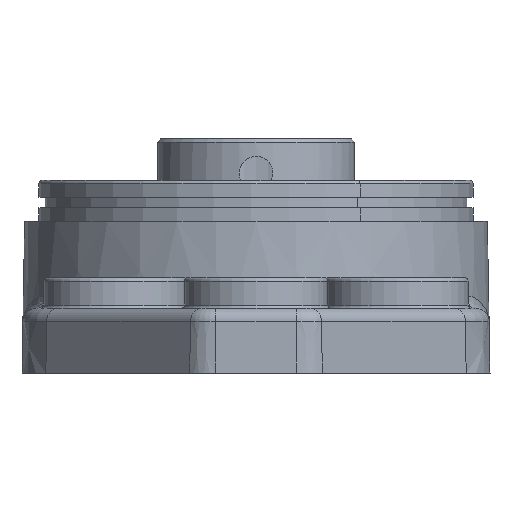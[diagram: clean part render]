
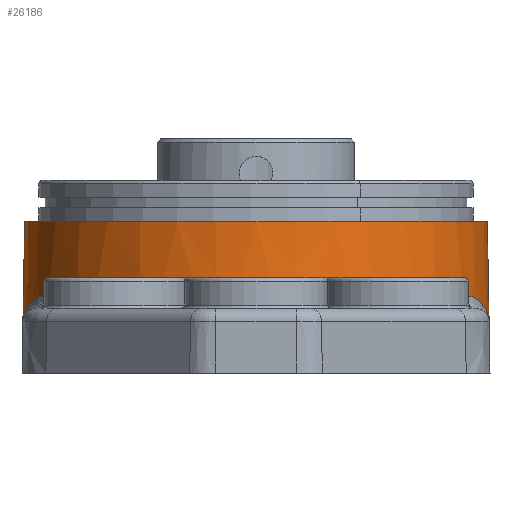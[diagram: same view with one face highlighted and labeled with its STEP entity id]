
A CAD part, front view. The second image highlights one B-rep face of the part: STEP entity #26186.
In plain terms, the highlighted conical face has half-angle 1 degrees and reference radius 34.4 mm.
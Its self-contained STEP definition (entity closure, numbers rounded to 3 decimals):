
#5087=CARTESIAN_POINT('Vertex',(34.251,0.,8.535)) ;
#5120=CARTESIAN_POINT('Vertex',(-34.251,0.,8.535)) ;
#5201=CARTESIAN_POINT('Control Point',(34.251,0.,8.535)) ;
#5202=CARTESIAN_POINT('Control Point',(34.251,-0.034,8.547)) ;
#5203=CARTESIAN_POINT('Control Point',(34.251,-0.069,8.559)) ;
#5204=CARTESIAN_POINT('Control Point',(34.25,-0.103,8.571)) ;
#5205=CARTESIAN_POINT('Control Point',(34.25,-0.142,8.584)) ;
#5206=CARTESIAN_POINT('Control Point',(34.249,-0.181,8.598)) ;
#5207=CARTESIAN_POINT('Control Point',(34.249,-0.186,8.6)) ;
#5208=CARTESIAN_POINT('Control Point',(34.248,-0.307,8.643)) ;
#5209=CARTESIAN_POINT('Control Point',(34.246,-0.429,8.685)) ;
#5210=CARTESIAN_POINT('Control Point',(34.244,-0.546,8.727)) ;
#5211=CARTESIAN_POINT('Control Point',(34.237,-0.819,8.822)) ;
#5212=CARTESIAN_POINT('Control Point',(34.227,-1.092,8.918)) ;
#5213=CARTESIAN_POINT('Control Point',(34.221,-1.248,8.973)) ;
#5214=CARTESIAN_POINT('Control Point',(34.17,-2.365,9.363)) ;
#5215=CARTESIAN_POINT('Control Point',(34.073,-3.481,9.747)) ;
#5216=CARTESIAN_POINT('Control Point',(33.956,-4.441,10.071)) ;
#5217=CARTESIAN_POINT('Control Point',(33.687,-6.139,10.624)) ;
#5218=CARTESIAN_POINT('Control Point',(33.31,-7.834,11.127)) ;
#5219=CARTESIAN_POINT('Control Point',(33.124,-8.571,11.334)) ;
#5220=CARTESIAN_POINT('Control Point',(32.753,-9.891,11.681)) ;
#5221=CARTESIAN_POINT('Control Point',(32.311,-11.206,11.971)) ;
#5222=CARTESIAN_POINT('Control Point',(32.102,-11.788,12.086)) ;
#5223=CARTESIAN_POINT('Control Point',(31.679,-12.883,12.275)) ;
#5224=CARTESIAN_POINT('Control Point',(31.206,-13.971,12.4)) ;
#5225=CARTESIAN_POINT('Control Point',(30.971,-14.483,12.442)) ;
#5226=CARTESIAN_POINT('Control Point',(30.725,-14.99,12.465)) ;
#5227=CARTESIAN_POINT('Control Point',(30.469,-15.495,12.465)) ;
#5228=CARTESIAN_POINT('Vertex',(30.469,-15.495,12.465)) ;
#5250=CARTESIAN_POINT('Axis2P3D Location',(0.,0.,12.465)) ;
#5254=CARTESIAN_POINT('Vertex',(-30.469,-15.495,12.465)) ;
#5330=CARTESIAN_POINT('Control Point',(-30.469,-15.495,12.465)) ;
#5331=CARTESIAN_POINT('Control Point',(-30.815,-14.814,12.465)) ;
#5332=CARTESIAN_POINT('Control Point',(-31.141,-14.128,12.423)) ;
#5333=CARTESIAN_POINT('Control Point',(-31.446,-13.438,12.349)) ;
#5334=CARTESIAN_POINT('Control Point',(-32.25,-11.479,12.064)) ;
#5335=CARTESIAN_POINT('Control Point',(-32.892,-9.501,11.599)) ;
#5336=CARTESIAN_POINT('Control Point',(-33.241,-8.219,11.251)) ;
#5337=CARTESIAN_POINT('Control Point',(-33.739,-5.974,10.579)) ;
#5338=CARTESIAN_POINT('Control Point',(-34.046,-3.723,9.83)) ;
#5339=CARTESIAN_POINT('Control Point',(-34.143,-2.761,9.501)) ;
#5340=CARTESIAN_POINT('Control Point',(-34.215,-1.673,9.122)) ;
#5341=CARTESIAN_POINT('Control Point',(-34.243,-0.584,8.74)) ;
#5342=CARTESIAN_POINT('Control Point',(-34.245,-0.459,8.696)) ;
#5343=CARTESIAN_POINT('Control Point',(-34.248,-0.326,8.649)) ;
#5344=CARTESIAN_POINT('Control Point',(-34.249,-0.194,8.603)) ;
#5345=CARTESIAN_POINT('Control Point',(-34.249,-0.187,8.6)) ;
#5346=CARTESIAN_POINT('Control Point',(-34.25,-0.145,8.585)) ;
#5347=CARTESIAN_POINT('Control Point',(-34.25,-0.103,8.571)) ;
#5348=CARTESIAN_POINT('Control Point',(-34.251,-0.069,8.559)) ;
#5349=CARTESIAN_POINT('Control Point',(-34.251,-0.034,8.547)) ;
#5350=CARTESIAN_POINT('Control Point',(-34.251,0.,8.535)) ;
#26146=CARTESIAN_POINT('Axis2P3D Location',(0.,0.,0.)) ;
#26151=CARTESIAN_POINT('Axis2P3D Location',(0.,0.,23.3)) ;
#26155=CARTESIAN_POINT('Vertex',(-33.993,0.,23.3)) ;
#26157=CARTESIAN_POINT('Vertex',(33.993,0.,23.3)) ;
#26160=CARTESIAN_POINT('Line Origine',(-34.144,0.,14.65)) ;
#26165=CARTESIAN_POINT('Line Origine',(34.144,0.,14.65)) ;
#26169=CARTESIAN_POINT('Vertex',(34.217,0.,10.5)) ;
#26172=CARTESIAN_POINT('Line Origine',(34.144,0.,14.65)) ;
#5251=DIRECTION('Axis2P3D Direction',(0.,-0.,1.)) ;
#26147=DIRECTION('Axis2P3D Direction',(-0.,-0.,-1.)) ;
#26148=DIRECTION('Axis2P3D XDirection',(-1.,0.,0.)) ;
#26152=DIRECTION('Axis2P3D Direction',(0.,0.,1.)) ;
#26161=DIRECTION('Vector Direction',(-0.017,0.,-1.)) ;
#26166=DIRECTION('Vector Direction',(0.017,0.,-1.)) ;
#26173=DIRECTION('Vector Direction',(0.017,0.,-1.)) ;
#5252=AXIS2_PLACEMENT_3D('Circle Axis2P3D',#5250,#5251,$) ;
#26149=AXIS2_PLACEMENT_3D('Cone Axis2P3D',#26146,#26147,#26148) ;
#26153=AXIS2_PLACEMENT_3D('Circle Axis2P3D',#26151,#26152,$) ;
#26178=ORIENTED_EDGE('',*,*,#26159,.F.) ;
#26179=ORIENTED_EDGE('',*,*,#26164,.F.) ;
#26180=ORIENTED_EDGE('',*,*,#5351,.F.) ;
#26181=ORIENTED_EDGE('',*,*,#5256,.F.) ;
#26182=ORIENTED_EDGE('',*,*,#5230,.F.) ;
#26183=ORIENTED_EDGE('',*,*,#26171,.F.) ;
#26184=ORIENTED_EDGE('',*,*,#26176,.T.) ;
#26162=VECTOR('Line Direction',#26161,1.) ;
#26167=VECTOR('Line Direction',#26166,1.) ;
#26174=VECTOR('Line Direction',#26173,1.) ;
#26186=ADVANCED_FACE('PartBody',(#26185),#26150,.T.) ;
#5200=B_SPLINE_CURVE_WITH_KNOTS('',5,(#5201,#5202,#5203,#5204,#5205,#5206,#5207,#5208,#5209,#5210,#5211,#5212,#5213,#5214,#5215,#5216,#5217,#5218,#5219,#5220,#5221,#5222,#5223,#5224,#5225,#5226,#5227),.UNSPECIFIED.,.F.,.U.,(6,3,3,3,3,3,3,3,6),(0.,0.26,0.295,1.179,2.357,9.618,15.218,19.672,23.633),.UNSPECIFIED.) ;
#5329=B_SPLINE_CURVE_WITH_KNOTS('',5,(#5330,#5331,#5332,#5333,#5334,#5335,#5336,#5337,#5338,#5339,#5340,#5341,#5342,#5343,#5344,#5345,#5346,#5347,#5348,#5349,#5350),.UNSPECIFIED.,.F.,.U.,(6,3,3,3,3,3,6),(15.84,21.183,30.935,38.217,39.162,39.218,39.477),.UNSPECIFIED.) ;
#5253=CIRCLE('generated circle',#5252,34.182) ;
#26154=CIRCLE('generated circle',#26153,33.993) ;
#26150=CONICAL_SURFACE('Cone',#26149,34.4,0.017) ;
#5230=EDGE_CURVE('',#5088,#5229,#5200,.T.) ;
#5256=EDGE_CURVE('',#5229,#5255,#5253,.F.) ;
#5351=EDGE_CURVE('',#5255,#5121,#5329,.T.) ;
#26159=EDGE_CURVE('',#26156,#26158,#26154,.T.) ;
#26164=EDGE_CURVE('',#5121,#26156,#26163,.F.) ;
#26171=EDGE_CURVE('',#26170,#5088,#26168,.T.) ;
#26176=EDGE_CURVE('',#26170,#26158,#26175,.F.) ;
#26177=EDGE_LOOP('',(#26178,#26179,#26180,#26181,#26182,#26183,#26184)) ;
#26185=FACE_OUTER_BOUND('',#26177,.T.) ;
#26163=LINE('Line',#26160,#26162) ;
#26168=LINE('Line',#26165,#26167) ;
#26175=LINE('Line',#26172,#26174) ;
#5088=VERTEX_POINT('',#5087) ;
#5121=VERTEX_POINT('',#5120) ;
#5229=VERTEX_POINT('',#5228) ;
#5255=VERTEX_POINT('',#5254) ;
#26156=VERTEX_POINT('',#26155) ;
#26158=VERTEX_POINT('',#26157) ;
#26170=VERTEX_POINT('',#26169) ;
